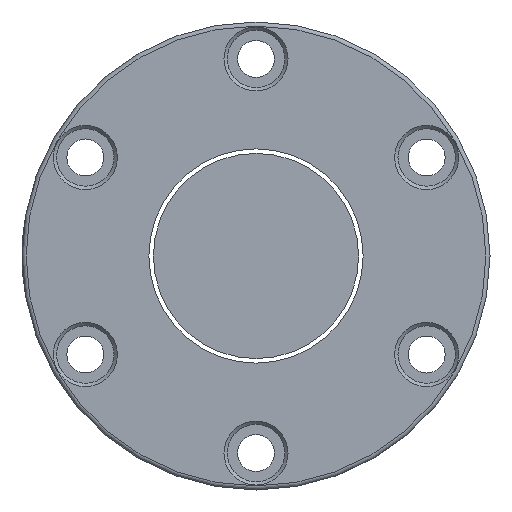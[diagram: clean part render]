
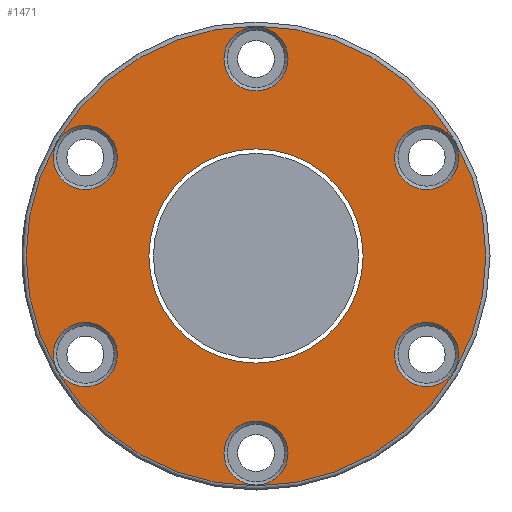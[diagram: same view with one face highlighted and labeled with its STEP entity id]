
A CAD part, left-side view. The second image highlights one B-rep face of the part: STEP entity #1471.
In plain terms, the highlighted planar face has unit normal (-1, 0, 0).
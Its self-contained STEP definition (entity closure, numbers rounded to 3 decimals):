
#6 = VERTEX_POINT ( 'NONE', #1555 ) ;
#80 = PLANE ( 'NONE',  #927 ) ;
#105 = EDGE_CURVE ( 'NONE', #2903, #2903, #1867, .T. ) ;
#117 = EDGE_LOOP ( 'NONE', ( #2667 ) ) ;
#127 = EDGE_CURVE ( 'NONE', #318, #318, #3338, .T. ) ;
#134 = AXIS2_PLACEMENT_3D ( 'NONE', #1846, #2121, #3246 ) ;
#137 = FACE_BOUND ( 'NONE', #1172, .T. ) ;
#151 = AXIS2_PLACEMENT_3D ( 'NONE', #581, #301, #1784 ) ;
#301 = DIRECTION ( 'NONE',  ( -1., 0., 0. ) ) ;
#318 = VERTEX_POINT ( 'NONE', #1463 ) ;
#360 = CARTESIAN_POINT ( 'NONE',  ( -60., 0., 48. ) ) ;
#386 = AXIS2_PLACEMENT_3D ( 'NONE', #1934, #2469, #3036 ) ;
#412 = ORIENTED_EDGE ( 'NONE', *, *, #127, .T. ) ;
#417 = DIRECTION ( 'NONE',  ( 0., 0., 1. ) ) ;
#487 = EDGE_CURVE ( 'NONE', #3139, #3139, #2340, .T. ) ;
#581 = CARTESIAN_POINT ( 'NONE',  ( -60., 0., 0. ) ) ;
#674 = CARTESIAN_POINT ( 'NONE',  ( -60., 57., 0. ) ) ;
#739 = CIRCLE ( 'NONE', #1223, 7.8 ) ;
#919 = EDGE_CURVE ( 'NONE', #3400, #3400, #984, .T. ) ;
#921 = VERTEX_POINT ( 'NONE', #1224 ) ;
#927 = AXIS2_PLACEMENT_3D ( 'NONE', #674, #3524, #992 ) ;
#936 = FACE_BOUND ( 'NONE', #1857, .T. ) ;
#941 = CARTESIAN_POINT ( 'NONE',  ( -60., 0., 56. ) ) ;
#955 = FACE_BOUND ( 'NONE', #3192, .T. ) ;
#971 = EDGE_LOOP ( 'NONE', ( #1824 ) ) ;
#984 = CIRCLE ( 'NONE', #1100, 7.8 ) ;
#992 = DIRECTION ( 'NONE',  ( 0., 0., 1. ) ) ;
#1030 = CARTESIAN_POINT ( 'NONE',  ( -60., -41.569, 31.8 ) ) ;
#1100 = AXIS2_PLACEMENT_3D ( 'NONE', #360, #3458, #417 ) ;
#1157 = CIRCLE ( 'NONE', #3229, 7.8 ) ;
#1172 = EDGE_LOOP ( 'NONE', ( #2255 ) ) ;
#1217 = CARTESIAN_POINT ( 'NONE',  ( -60., -41.569, -24. ) ) ;
#1223 = AXIS2_PLACEMENT_3D ( 'NONE', #1217, #2938, #2126 ) ;
#1224 = CARTESIAN_POINT ( 'NONE',  ( -60., -41.569, -16.2 ) ) ;
#1281 = AXIS2_PLACEMENT_3D ( 'NONE', #2259, #3390, #2829 ) ;
#1463 = CARTESIAN_POINT ( 'NONE',  ( -60., 0., -26.1 ) ) ;
#1471 = ADVANCED_FACE ( 'NONE', ( #3193, #3489, #936, #955, #137, #2088, #3215, #3507 ), #80, .T. ) ;
#1515 = EDGE_CURVE ( 'NONE', #2329, #2329, #2523, .T. ) ;
#1545 = EDGE_LOOP ( 'NONE', ( #1916 ) ) ;
#1555 = CARTESIAN_POINT ( 'NONE',  ( -60., 41.569, 31.8 ) ) ;
#1560 = EDGE_CURVE ( 'NONE', #921, #921, #739, .T. ) ;
#1569 = EDGE_LOOP ( 'NONE', ( #1862 ) ) ;
#1690 = AXIS2_PLACEMENT_3D ( 'NONE', #2106, #3233, #1797 ) ;
#1784 = DIRECTION ( 'NONE',  ( 0., 0., 1. ) ) ;
#1790 = EDGE_CURVE ( 'NONE', #6, #6, #1157, .T. ) ;
#1797 = DIRECTION ( 'NONE',  ( 0., 0., 1. ) ) ;
#1824 = ORIENTED_EDGE ( 'NONE', *, *, #105, .T. ) ;
#1846 = CARTESIAN_POINT ( 'NONE',  ( -60., -41.569, 24. ) ) ;
#1857 = EDGE_LOOP ( 'NONE', ( #3282 ) ) ;
#1862 = ORIENTED_EDGE ( 'NONE', *, *, #1515, .T. ) ;
#1867 = CIRCLE ( 'NONE', #1281, 7.8 ) ;
#1916 = ORIENTED_EDGE ( 'NONE', *, *, #1560, .T. ) ;
#1934 = CARTESIAN_POINT ( 'NONE',  ( -60., 0., 0. ) ) ;
#1998 = CARTESIAN_POINT ( 'NONE',  ( -60., 0., -40.2 ) ) ;
#2088 = FACE_BOUND ( 'NONE', #971, .T. ) ;
#2106 = CARTESIAN_POINT ( 'NONE',  ( -60., 0., -48. ) ) ;
#2121 = DIRECTION ( 'NONE',  ( 1., 0., 0. ) ) ;
#2126 = DIRECTION ( 'NONE',  ( 0., 0., 1. ) ) ;
#2152 = ORIENTED_EDGE ( 'NONE', *, *, #919, .T. ) ;
#2255 = ORIENTED_EDGE ( 'NONE', *, *, #1790, .T. ) ;
#2259 = CARTESIAN_POINT ( 'NONE',  ( -60., 41.569, -24. ) ) ;
#2290 = CARTESIAN_POINT ( 'NONE',  ( -60., 41.569, -16.2 ) ) ;
#2329 = VERTEX_POINT ( 'NONE', #1998 ) ;
#2340 = CIRCLE ( 'NONE', #151, 56. ) ;
#2344 = CIRCLE ( 'NONE', #134, 7.8 ) ;
#2469 = DIRECTION ( 'NONE',  ( 1., 0., 0. ) ) ;
#2523 = CIRCLE ( 'NONE', #1690, 7.8 ) ;
#2535 = DIRECTION ( 'NONE',  ( 1., 0., 0. ) ) ;
#2667 = ORIENTED_EDGE ( 'NONE', *, *, #487, .T. ) ;
#2829 = DIRECTION ( 'NONE',  ( 0., 0., 1. ) ) ;
#2833 = EDGE_CURVE ( 'NONE', #2942, #2942, #2344, .T. ) ;
#2840 = CARTESIAN_POINT ( 'NONE',  ( -60., 0., 55.8 ) ) ;
#2881 = CARTESIAN_POINT ( 'NONE',  ( -60., 41.569, 24. ) ) ;
#2903 = VERTEX_POINT ( 'NONE', #2290 ) ;
#2938 = DIRECTION ( 'NONE',  ( 1., 0., 0. ) ) ;
#2942 = VERTEX_POINT ( 'NONE', #1030 ) ;
#3036 = DIRECTION ( 'NONE',  ( 0., 0., -1. ) ) ;
#3139 = VERTEX_POINT ( 'NONE', #941 ) ;
#3192 = EDGE_LOOP ( 'NONE', ( #2152 ) ) ;
#3193 = FACE_OUTER_BOUND ( 'NONE', #117, .T. ) ;
#3215 = FACE_BOUND ( 'NONE', #1569, .T. ) ;
#3229 = AXIS2_PLACEMENT_3D ( 'NONE', #2881, #2535, #3376 ) ;
#3233 = DIRECTION ( 'NONE',  ( 1., 0., 0. ) ) ;
#3240 = EDGE_LOOP ( 'NONE', ( #412 ) ) ;
#3246 = DIRECTION ( 'NONE',  ( 0., 0., 1. ) ) ;
#3282 = ORIENTED_EDGE ( 'NONE', *, *, #2833, .T. ) ;
#3338 = CIRCLE ( 'NONE', #386, 26.1 ) ;
#3376 = DIRECTION ( 'NONE',  ( 0., 0., 1. ) ) ;
#3390 = DIRECTION ( 'NONE',  ( 1., 0., 0. ) ) ;
#3400 = VERTEX_POINT ( 'NONE', #2840 ) ;
#3458 = DIRECTION ( 'NONE',  ( 1., 0., 0. ) ) ;
#3489 = FACE_BOUND ( 'NONE', #1545, .T. ) ;
#3507 = FACE_BOUND ( 'NONE', #3240, .T. ) ;
#3524 = DIRECTION ( 'NONE',  ( -1., 0., 0. ) ) ;
